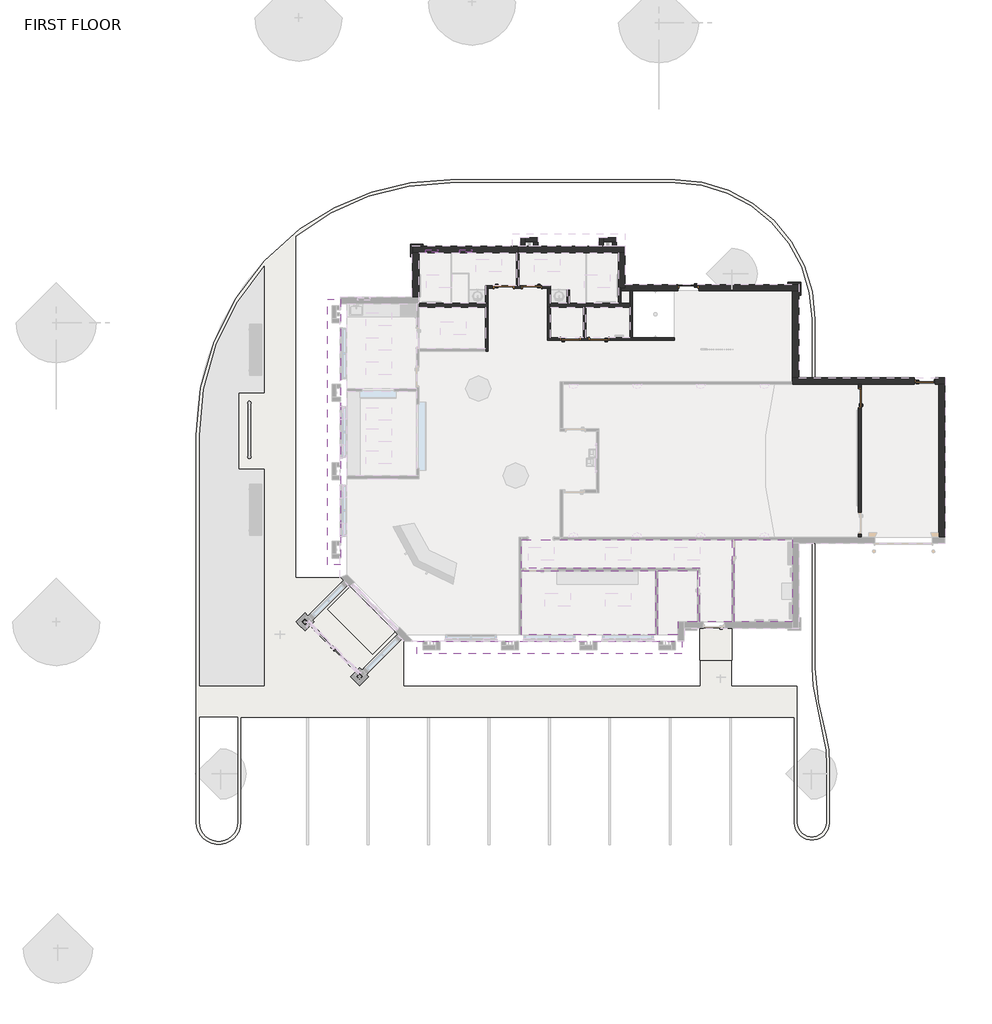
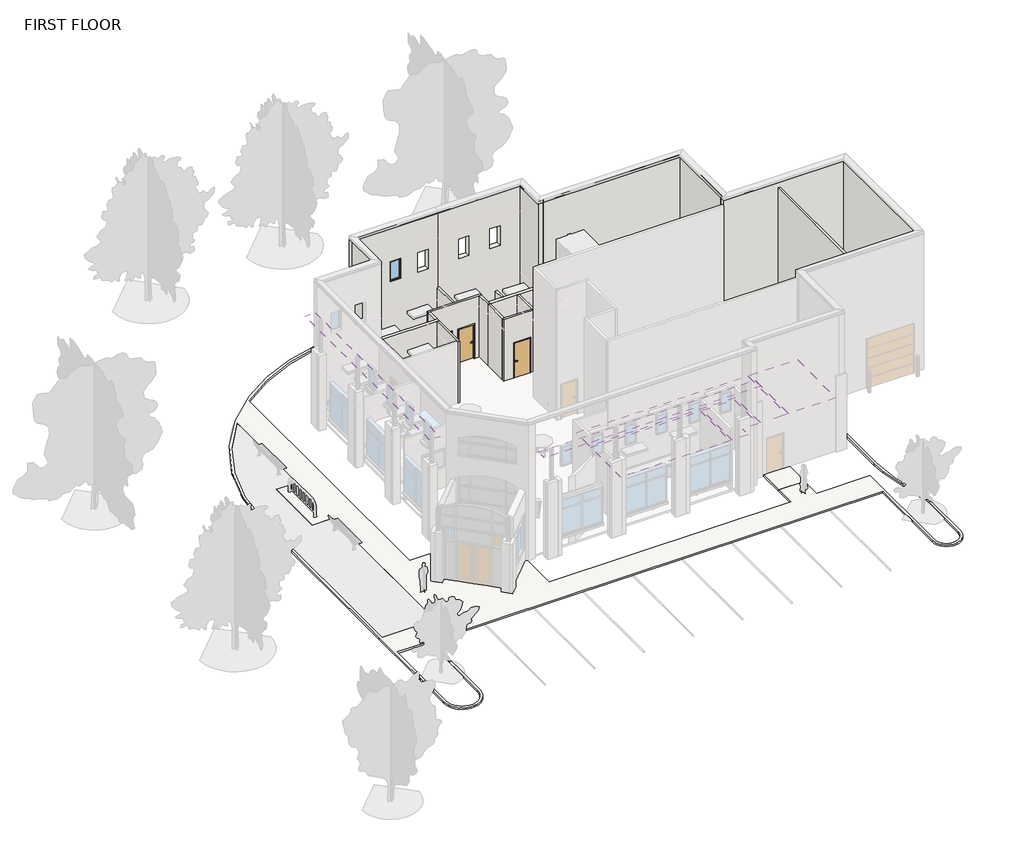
# One storey, part 4 of 7: 32 walls, 7 doors, 4 coverings, 3 slabs, 2 roofs, 2 windows.
"""IFC4 building model written with IfcOpenShell, lengths in millimetres."""

from ifc_helpers import new_model, si_unit, point, frame, frame_2d, origin, place, context, project, spatial, polyline, circle_curve, trimmed, segment, composite_curve, outline, extrude, faceted_brep, transform, mapped, element, save
from components import hm_frame_door_interior_single_4ead148d, hm_frame_door_interior_single_41877bdb, hm_frame_door_interior_single_d49bdf56, door_65ba9089, aluminum_exterior_window_single_3885_e2dbf674

model = new_model("IFC4")

# Units and contexts
model_context = context("Model", 3, world=origin())
ifc_project = project(units=[si_unit("LENGTHUNIT", "METRE", prefix="MILLI")], contexts=[model_context])

# Site, building, storey
site = spatial("IfcSite", under=ifc_project)
building = spatial("IfcBuilding", under=site)
storey = spatial("IfcBuildingStorey", under=building, Name="FIRST FLOOR", Elevation=30480.0)

# Coverings
placement = place(None, origin())
element("IfcCovering", 1, ObjectType="2' x 2' ACT System", at=placement, inside=storey, context=model_context, shape_type="SweptSolid", body=[
    extrude(outline(polyline([(-8159.860253, -2898.6489595), (-1736.860653, -2898.6489595), (-1736.860653, -5952.9989595), (-8159.860253, -5952.9989595), (-8159.860253, -2898.6489595)]), holes=[polyline([(-2916.347753, -3971.7989595), (-4135.547753, -3971.7989595), (-4135.547753, -4581.3989595), (-2916.347753, -4581.3989595), (-2916.347753, -3971.7989595)]), polyline([(-5800.855573, -3971.7989595), (-7020.055573, -3971.7989595), (-7020.055573, -4581.3989595), (-5800.855573, -4581.3989595), (-5800.855573, -3971.7989595)])]), frame((0.0, 0.0, 33528.0), z_axis=(0.0, 0.0, 1.0), x_axis=(1.0, 0.0, 0.0)), (0.0, 0.0, 1.0), 57.15),
])
element("IfcCovering", 2, ObjectType="2' x 2' ACT System", at=placement, inside=storey, context=model_context, shape_type="SweptSolid", body=[
    extrude(outline(polyline([(396.764747, -5343.3989595), (396.764747, -2774.8239595), (-8159.860253, -2774.8239595), (-8159.860253, -1403.2239595), (-6305.660253, -1403.2239595), (1920.764747, -1403.2239595), (1920.764747, -5343.3989595), (396.764747, -5343.3989595)]), holes=[polyline([(-6607.285253, -1777.7722564), (-7826.485253, -1777.7722564), (-7826.485253, -2387.3722564), (-6607.285253, -2387.3722564), (-6607.285253, -1777.7722564)]), polyline([(-2916.347753, -1777.7722564), (-4135.547753, -1777.7722564), (-4135.547753, -2387.3722564), (-2916.347753, -2387.3722564), (-2916.347753, -1777.7722564)]), polyline([(396.764747, -1777.7722564), (-822.435253, -1777.7722564), (-822.435253, -2387.3722564), (396.764747, -2387.3722564), (396.764747, -1777.7722564)])]), frame((0.0, 0.0, 33528.0), z_axis=(0.0, 0.0, 1.0), x_axis=(1.0, 0.0, 0.0)), (0.0, 0.0, 1.0), 57.15),
])
element("IfcCovering", 3, ObjectType="2' x 2' ACT System", at=placement, inside=storey, context=model_context, shape_type="SweptSolid", body=[
    extrude(outline(polyline([(272.939747, -2898.6489595), (272.939747, -5343.3989595), (-670.035253, -5343.3989595), (-670.035253, -5952.9989595), (-1613.035653, -5952.9989595), (-1613.035653, -2898.6489595), (272.939747, -2898.6489595)])), frame((0.0, 0.0, 33528.0), z_axis=(0.0, 0.0, 1.0), x_axis=(1.0, 0.0, 0.0)), (0.0, 0.0, 1.0), 57.15),
])
element("IfcCovering", 4, ObjectType="2' x 2' ACT System", at=placement, inside=storey, context=model_context, shape_type="SweptSolid", body=[
    extrude(outline(polyline([(4816.364747, -1403.2239595), (4816.364747, -5343.3989595), (2044.589747, -5343.3989595), (2044.589747, -1403.2239595), (4816.364747, -1403.2239595)])), frame((0.0, 0.0, 33528.0), z_axis=(0.0, 0.0, 1.0), x_axis=(1.0, 0.0, 0.0)), (0.0, 0.0, 1.0), 57.15),
])

# Doors
hm_frame_door_interior_single_shape = hm_frame_door_interior_single_4ead148d(model_context)
element("IfcDoor", 5, ObjectType="HM Frame Door - Interior Single : 36\" x 84\" x 5.75\" WD Door", at=placement, inside=storey, context=model_context, shape_type="MappedRepresentation", body=[
    mapped(hm_frame_door_interior_single_shape, transform((-7661.385253, 10685.5885405, 30480.0), x_axis=(-1.0, 0.0, 0.0), y_axis=(0.0, -1.0, 0.0), z_axis=(0.0, 0.0, 1.0))),
])
element("IfcDoor", 6, ObjectType="HM Frame Door - Interior Single : 36\" x 84\" x 5.75\" WD Door", at=placement, inside=storey, context=model_context, shape_type="MappedRepresentation", body=[
    mapped(hm_frame_door_interior_single_shape, transform((-5811.886793, 8209.0885405, 30480.0), x_axis=(1.0, 0.0, 0.0), y_axis=(0.0, 1.0, 0.0), z_axis=(0.0, 0.0, 1.0))),
])
element("IfcDoor", 7, ObjectType="HM Frame Door - Interior Single : 36\" x 84\" x 5.75\" WD Door", at=placement, inside=storey, context=model_context, shape_type="MappedRepresentation", body=[
    mapped(hm_frame_door_interior_single_shape, transform((8049.7427189, 5375.4010405, 30480.0), x_axis=(0.0, 1.0, 0.0), y_axis=(-1.0, 0.0, 0.0), z_axis=(0.0, 0.0, 1.0))),
])
hm_frame_door_interior_single_2_shape = hm_frame_door_interior_single_41877bdb(model_context)
element("IfcDoor", 8, ObjectType="HM Frame Door - Interior Single : 36\" x 84\" x 5.75\" WD Door", at=placement, inside=storey, context=model_context, shape_type="MappedRepresentation", body=[
    mapped(hm_frame_door_interior_single_2_shape, transform((-4440.347753, 8209.0885405, 30480.0), x_axis=(-1.0, 0.0, 0.0), y_axis=(0.0, -1.0, 0.0), z_axis=(0.0, 0.0, 1.0))),
])
element("IfcDoor", 9, ObjectType="HM Frame Door - Interior Single : 36\" x 84\" x 5.75\" WD Door", at=placement, inside=storey, context=model_context, shape_type="MappedRepresentation", body=[
    mapped(hm_frame_door_interior_single_2_shape, transform((-9004.410253, 10685.5885405, 30480.0), x_axis=(1.0, 0.0, 0.0), y_axis=(0.0, 1.0, 0.0), z_axis=(0.0, 0.0, 1.0))),
])
hm_frame_door_interior_single_3_shape = hm_frame_door_interior_single_d49bdf56(model_context)
element("IfcDoor", 10, ObjectType="HM Frame Door - Interior Single : 36\" x 84\" x 5.75\" WD Door", at=placement, inside=storey, context=model_context, shape_type="MappedRepresentation", body=[
    mapped(hm_frame_door_interior_single_3_shape, transform((11166.364747, 6188.2010405, 30480.0), x_axis=(1.0, 0.0, 0.0), y_axis=(0.0, 1.0, 0.0), z_axis=(0.0, 0.0, 1.0))),
])
door_shape = door_65ba9089(model_context)
element("IfcDoor", 11, ObjectType="HM_Frame_Door_-_Exterior_Single_3894 : 3'-0\" x 7'-0\" Metal_5.75\" x 4\"", at=placement, inside=storey, context=model_context, shape_type="MappedRepresentation", body=[
    mapped(door_shape, transform((-162.035253, 10658.6010405, 30480.0), x_axis=(1.0, 0.0, 0.0), y_axis=(0.0, 1.0, 0.0), z_axis=(0.0, 0.0, 1.0))),
])

# Roofs
element("IfcRoof", 12, ObjectType="Generic - 9\"", at=placement, inside=storey, context=model_context, shape_type="SweptSolid", body=[
    extrude(outline(polyline([(-13166.835253, -6867.3989595), (-13166.835253, -6257.7989595), (-466.865733, -6257.7989595), (-466.865733, -6867.3989595), (-13166.835253, -6867.3989595)])), frame((0.0, 0.0, 37033.2), z_axis=(0.0, 0.0, 1.0), x_axis=(1.0, 0.0, 0.0)), (0.0, 0.0, 1.0), 228.6),
])
element("IfcRoof", 13, ObjectType="Generic - 9\"", at=placement, inside=storey, context=model_context, shape_type="SweptSolid", body=[
    extrude(outline(polyline([(-17434.035253, -2600.1989595), (-17434.035253, 10099.7705605), (-16824.435253, 10099.7705605), (-16824.435253, -2600.1989595), (-17434.035253, -2600.1989595)])), frame((0.0, 0.0, 37033.2), z_axis=(0.0, 0.0, 1.0), x_axis=(1.0, 0.0, 0.0)), (0.0, 0.0, 1.0), 228.6),
])

# Slabs
element("IfcSlab", 14, ObjectType="Concrete - 4\"", at=placement, inside=storey, context=model_context, shape_type="SweptSolid", body=[
    extrude(outline(polyline([(-14214.7196115, -5819.514601), (-15292.3503461, -6897.1453355), (-17447.6118151, -4741.8838664), (-16369.9810806, -3664.2531319), (-14214.7196115, -5819.514601)])), frame((0.0, 0.0, 30378.4), z_axis=(0.0, 0.0, 1.0), x_axis=(1.0, 0.0, 0.0)), (0.0, 0.0, 1.0), 101.6),
])
element("IfcSlab", 15, ObjectType="Concrete - 4\"", at=placement, inside=storey, context=model_context, shape_type="SweptSolid", body=[
    extrude(outline(polyline([(396.764747, -5648.1989595), (1920.764747, -5648.1989595), (1920.764747, -7172.1989595), (396.764747, -7172.1989595), (396.764747, -5648.1989595)])), frame((0.0, 0.0, 30378.4), z_axis=(0.0, 0.0, 1.0), x_axis=(1.0, 0.0, 0.0)), (0.0, 0.0, 1.0), 101.6),
])
element("IfcSlab", 16, ObjectType="Concrete - 4\"", at=placement, inside=storey, context=model_context, shape_type="SweptSolid", body=[
    extrude(outline(composite_curve([segment(trimmed(circle_curve(frame_2d((18007.0934557, -7230.0234415)), 12111.0403124), [point((5900.665264, -7564.2297969))], [point((6420.4398393, -10755.1837814))], True, "CARTESIAN"), True, "CONTINUOUS"), segment(trimmed(circle_curve(frame_2d((2438.7853037, -11966.5750183)), 4161.855544), [point((6420.4398393, -10755.1837814))], [point((6594.0918739, -12199.960701))], False, "CARTESIAN"), True, "CONTINUOUS"), segment(polyline([(6594.0918739, -12199.960701), (6594.0342519, -14944.8940843)]), True, "CONTINUOUS"), segment(trimmed(circle_curve(frame_2d((5755.8342519, -14944.8940843)), 838.2), [point((6594.0342519, -14944.8940843))], [point((4917.6342519, -14944.8940843))], False, "CARTESIAN"), True, "CONTINUOUS"), segment(polyline([(4917.6342519, -14944.8940843), (4917.6342519, -9915.3989595), (-21597.6454668, -9915.3989595), (-21597.6454668, -14929.625341)]), True, "CONTINUOUS"), segment(trimmed(circle_curve(frame_2d((-22664.4454668, -14929.625341)), 1066.8), [point((-21597.6454668, -14929.625341))], [point((-23731.2454668, -14929.625341))], False, "CARTESIAN"), True, "CONTINUOUS"), segment(polyline([(-23731.2454668, -14929.625341), (-23733.5657419, -8391.3989595), (-23733.5657419, 3597.4010405)]), True, "CONTINUOUS"), segment(trimmed(circle_curve(frame_2d((-11449.3923274, 3597.4010405)), 12284.1734145), [point((-23733.5657419, 3597.4010405))], [point((-18752.7442995, 13474.7471643))], False, "CARTESIAN"), True, "CONTINUOUS"), segment(trimmed(circle_curve(frame_2d((-11617.8585677, 3825.2415406)), 12000.8146885), [point((-18752.7442995, 13474.7471643))], [point((-11554.882421, 15825.8909894))], False, "CARTESIAN"), True, "CONTINUOUS"), segment(polyline([(-11554.882421, 15825.8909894), (-812.4529895, 15837.9680159)]), True, "CONTINUOUS"), segment(trimmed(circle_curve(frame_2d((-804.9143169, 9132.3722535)), 6705.6), [point((-812.4529895, 15837.9680159))], [point((5900.665264, 9148.9204822))], False, "CARTESIAN"), True, "CONTINUOUS"), segment(polyline([(5900.665264, 9148.9204822), (5900.665264, -7564.2297969)]), True, "CONTINUOUS")], self_intersect=False), holes=[composite_curve([segment(polyline([(1920.764747, -8391.3991254), (5070.0342519, -8391.3991254), (5070.0342519, -14944.8940843)]), True, "CONTINUOUS"), segment(trimmed(circle_curve(frame_2d((5755.8342519, -14944.8940843)), 685.7999999), [point((5070.0342519, -14944.8940843))], [point((6441.6342517, -14944.9084807))], True, "CARTESIAN"), True, "CONTINUOUS"), segment(polyline([(6441.6342517, -14944.9084807), (6441.6919644, -12195.6477783)]), True, "CONTINUOUS"), segment(trimmed(circle_curve(frame_2d((2438.7854456, -11966.5749761)), 4009.4556921), [point((6441.6919644, -12195.6477783))], [point((6274.6386864, -10799.5424735))], True, "CARTESIAN"), True, "CONTINUOUS"), segment(trimmed(circle_curve(frame_2d((18007.0985023, -7230.0206277)), 12263.4456635), [point((6274.6386864, -10799.5424735))], [point((5798.7693976, -8391.3991233))], False, "CARTESIAN"), True, "CONTINUOUS"), segment(trimmed(circle_curve(frame_2d((18007.0934397, -7230.0237664)), 12263.4403263), [point((5798.7693976, -8391.3991233))], [point((5748.2652478, -7566.3271994))], False, "CARTESIAN"), True, "CONTINUOUS"), segment(polyline([(5748.2652478, -7566.3271994), (5748.2652475, 9148.7313547)]), True, "CONTINUOUS"), segment(trimmed(circle_curve(frame_2d((-804.9143255, 9132.3722567)), 6553.199992), [point((5748.2652475, 9148.7313547))], [point((-812.2816603, 15685.5681074))], True, "CARTESIAN"), True, "CONTINUOUS"), segment(polyline([(-812.2816603, 15685.5681074), (-11555.1981803, 15673.4905381)]), True, "CONTINUOUS"), segment(trimmed(circle_curve(frame_2d((-11617.8585677, 3825.2415406)), 11848.4146885), [point((-11555.1981803, 15673.4905381))], [point((-18958.035253, 13126.1413282))], True, "CARTESIAN"), True, "CONTINUOUS"), segment(polyline([(-18958.035253, 13126.1413282), (-18958.035253, -3209.7989595), (-16824.435253, -3209.7989595), (-16369.9810806, -3664.2531319), (-17447.6118151, -4741.8838664), (-15292.3503461, -6897.1453355), (-14214.7196115, -5819.514601), (-13776.435253, -6257.7989595), (-13776.435253, -8391.3989595), (396.764747, -8391.3989595), (396.764747, -7172.1989595), (1920.764747, -7172.1989595), (1920.764747, -8391.3991254)]), True, "CONTINUOUS")], self_intersect=False), composite_curve([segment(polyline([(-20482.035253, 5629.3807205), (-20482.035253, 11696.2458939)]), True, "CONTINUOUS"), segment(trimmed(circle_curve(frame_2d((-11449.3923274, 3597.4010405)), 12131.7734145), [point((-20482.035253, 11696.2458939))], [point((-23581.1657419, 3597.4010405))], True, "CARTESIAN"), True, "CONTINUOUS"), segment(polyline([(-23581.1657419, 3597.4010405), (-23581.1657419, -8391.3989595), (-20482.035253, -8391.3989595), (-20482.035253, 1971.8010405), (-21701.235253, 1971.8010405), (-21701.235253, 5629.3807205), (-20482.035253, 5629.3807205)]), True, "CONTINUOUS")], self_intersect=False), composite_curve([segment(polyline([(-21750.0454668, -9915.3989595), (-23581.1657419, -9915.3989595), (-23578.8454668, -14929.625341)]), True, "CONTINUOUS"), segment(trimmed(circle_curve(frame_2d((-22664.4454668, -14929.625341)), 914.4), [point((-23578.8454668, -14929.625341))], [point((-21750.0454668, -14929.625341))], True, "CARTESIAN"), True, "CONTINUOUS"), segment(polyline([(-21750.0454668, -14929.625341), (-21750.0454668, -9915.3989595)]), True, "CONTINUOUS")], self_intersect=False)]), frame((0.0, 0.0, 30378.4), z_axis=(0.0, 0.0, 1.0), x_axis=(1.0, 0.0, 0.0)), (0.0, 0.0, 1.0), 101.6),
])

# Walls
element("IfcWall", 17, ObjectType="Exterior - Brick on Mtl. Stud", at=placement, inside=storey, context=model_context, shape_type="SweptSolid", body=[
    extrude(outline(polyline([(30480.0, 4816.364747), (30480.0, 5121.164747), (39014.4, 5121.164747), (39014.4, 4819.539747), (38899.5401618, 4819.539747), (38890.816921, 4816.364747), (30480.0, 4816.364747)])), frame((0.0, 6340.6010405, 0.0), z_axis=(0.0, 1.0, 0.0), x_axis=(0.0, 0.0, 1.0)), (0.0, 0.0, 1.0), 4165.6),
])
element("IfcWall", 18, ObjectType="Exterior - Brick on Mtl. Stud", at=placement, inside=storey, context=model_context, shape_type="Brep", body=[
    faceted_brep([(12131.564747, 6035.8010405, 30480.0), (12131.564747, 6035.8010405, 39014.4), (11829.939747, 6035.8010405, 39014.4), (11829.939747, 6035.8010405, 38899.5401618), (11826.764747, 6035.8010405, 38890.816921), (4816.364747, 6035.8010405, 38890.816921), (4816.364747, 6035.8010405, 38557.2), (4816.364747, 6035.8010405, 30480.0), (7987.8302189, 6035.8010405, 30480.0), (8111.6552189, 6035.8010405, 30480.0), (10658.364747, 6035.8010405, 30480.0), (10658.364747, 6035.8010405, 32664.4), (11674.364747, 6035.8010405, 32664.4), (11674.364747, 6035.8010405, 30480.0), (11826.764747, 6035.8010405, 30480.0), (12131.564747, 6340.6010405, 39014.4), (12131.564747, 6340.6010405, 30480.0), (11674.364747, 6340.6010405, 30480.0), (11674.364747, 6340.6010405, 32664.4), (10658.364747, 6340.6010405, 32664.4), (10658.364747, 6340.6010405, 30480.0), (5121.164747, 6340.6010405, 30480.0), (4816.364747, 6340.6010405, 30480.0), (4816.364747, 6340.6010405, 38890.816921), (4819.539747, 6340.6010405, 38899.5401618), (4819.539747, 6340.6010405, 39014.4), (5121.164747, 6340.6010405, 39014.4), (4816.364747, 6159.6260405, 30480.0), (4819.539747, 6038.9760405, 39014.4), (11829.939747, 6038.9760405, 39014.4), (4819.539747, 6038.9760405, 38899.5401618), (11829.939747, 6038.9760405, 38899.5401618)], [[[0, 1, 2, 3, 4, 5, 6, 7, 8, 9, 10, 11, 12, 13, 14]], [[15, 16, 17, 18, 19, 20, 21, 22, 23, 24, 25, 26]], [[7, 27, 22, 21, 20, 10, 9, 8]], [[16, 0, 14, 13, 17]], [[1, 15, 26, 25, 28, 29, 2]], [[1, 0, 16, 15]], [[22, 27, 7, 6, 5, 23]], [[19, 18, 12, 11]], [[20, 19, 11, 10]], [[18, 17, 13, 12]], [[30, 28, 25, 24]], [[5, 30, 24, 23]], [[30, 31, 29, 28]], [[31, 30, 5, 4]], [[29, 31, 3, 2]], [[31, 4, 3]]]),
])
element("IfcWall", 19, ObjectType="Exterior - Brick on Mtl. Stud", at=placement, inside=storey, context=model_context, shape_type="SweptSolid", body=[
    extrude(outline(polyline([(30480.0, 11826.764747), (30480.0, 12131.564747), (39014.4, 12131.564747), (39014.4, 11829.939747), (38899.5401618, 11829.939747), (38890.816921, 11826.764747), (30480.0, 11826.764747)])), frame((0.0, -1279.3989595, 0.0), z_axis=(0.0, 1.0, 0.0), x_axis=(0.0, 0.0, 1.0)), (0.0, 0.0, 1.0), 7315.2),
])
element("IfcWall", 20, ObjectType="Exterior - Brick on Mtl. Stud", at=placement, inside=storey, context=model_context, shape_type="Brep", body=[
    faceted_brep([(-13370.035253, 12335.0010405, 30480.0), (-13065.235253, 12335.0010405, 30480.0), (-8394.810253, 12335.0010405, 30480.0), (-8332.897753, 12335.0010405, 30480.0), (-8332.897753, 12335.0010405, 38890.816921), (-13065.235253, 12335.0010405, 38890.816921), (-13068.410253, 12335.0010405, 38899.5401618), (-13068.410253, 12335.0010405, 39014.4), (-13370.035253, 12335.0010405, 39014.4), (-9509.235253, 12335.0010405, 35610.8), (-9509.235253, 12335.0010405, 36830.0), (-8899.635253, 12335.0010405, 36830.0), (-8899.635253, 12335.0010405, 35610.8), (-11134.835253, 12335.0010405, 35610.8), (-11134.835253, 12335.0010405, 36830.0), (-10525.235253, 12335.0010405, 36830.0), (-10525.235253, 12335.0010405, 35610.8), (-12760.435253, 12335.0010405, 35610.8), (-12760.435253, 12335.0010405, 36830.0), (-12150.835253, 12335.0010405, 36830.0), (-12150.835253, 12335.0010405, 35610.8), (-8332.897753, 12639.8010405, 30480.0), (-13370.035253, 12639.8010405, 30480.0), (-13370.035253, 12639.8010405, 39014.4), (-8332.897753, 12639.8010405, 39014.4), (-9509.235253, 12639.8010405, 36830.0), (-9509.235253, 12639.8010405, 35610.8), (-8899.635253, 12639.8010405, 35610.8), (-8899.635253, 12639.8010405, 36830.0), (-11134.835253, 12639.8010405, 36830.0), (-11134.835253, 12639.8010405, 35610.8), (-10525.235253, 12639.8010405, 35610.8), (-10525.235253, 12639.8010405, 36830.0), (-12760.435253, 12639.8010405, 36830.0), (-12760.435253, 12639.8010405, 35610.8), (-12150.835253, 12639.8010405, 35610.8), (-12150.835253, 12639.8010405, 36830.0), (-13068.410253, 12338.1760405, 39014.4), (-8332.897753, 12338.1760405, 39014.4), (-8332.897753, 12338.1760405, 38899.5401618), (-13068.410253, 12338.1760405, 38899.5401618)], [[[0, 1, 2, 3, 4, 5, 6, 7, 8], [9, 10, 11, 12], [13, 14, 15, 16], [17, 18, 19, 20]], [[21, 22, 23, 24], [25, 26, 27, 28], [29, 30, 31, 32], [33, 34, 35, 36]], [[3, 2, 1, 0, 22, 21]], [[24, 23, 8, 7, 37, 38]], [[0, 8, 23, 22]], [[3, 21, 24, 38, 39, 4]], [[26, 25, 10, 9]], [[27, 26, 9, 12]], [[28, 27, 12, 11]], [[25, 28, 11, 10]], [[30, 29, 14, 13]], [[31, 30, 13, 16]], [[32, 31, 16, 15]], [[29, 32, 15, 14]], [[34, 33, 18, 17]], [[35, 34, 17, 20]], [[36, 35, 20, 19]], [[33, 36, 19, 18]], [[40, 37, 7, 6]], [[5, 40, 6]], [[37, 40, 39, 38]], [[40, 5, 4, 39]]]),
])
element("IfcWall", 21, ObjectType="Exterior - Brick on Mtl. Stud", at=placement, inside=storey, context=model_context, shape_type="SweptSolid", body=[
    extrude(outline(polyline([(30480.0, -13370.035253), (30480.0, -13065.235253), (38890.816921, -13065.235253), (38899.5401618, -13068.410253), (39014.4, -13068.410253), (39014.4, -13370.035253), (30480.0, -13370.035253)])), frame((0.0, 10201.4010405, 0.0), z_axis=(0.0, 1.0, 0.0), x_axis=(0.0, 0.0, 1.0)), (0.0, 0.0, 1.0), 2133.6),
])
element("IfcWall", 22, ObjectType="Exterior - Brick on Mtl. Stud", at=placement, inside=storey, context=model_context, shape_type="Brep", body=[
    faceted_brep([(-3210.035253, 10658.6010405, 30480.0), (-3210.035253, 10811.0010405, 30480.0), (-3210.035253, 12335.0010405, 30480.0), (-3210.035253, 12335.0010405, 39014.4), (-3210.035253, 10811.0010405, 39014.4), (-3210.035253, 10509.3760405, 39014.4), (-3210.035253, 10509.3760405, 38899.5401618), (-3210.035253, 10506.2010405, 38890.816921), (-3210.035253, 10506.2010405, 34290.0), (-3210.035253, 10658.6010405, 34290.0), (-3514.835253, 12335.0010405, 30480.0), (-3514.835253, 10658.6010405, 30480.0), (-3514.835253, 10658.6010405, 34290.0), (-3514.835253, 10506.2010405, 34290.0), (-3514.835253, 10506.2010405, 34594.8), (-3514.835253, 10506.2010405, 38557.2), (-3514.835253, 10506.2010405, 38890.816921), (-3514.835253, 12335.0010405, 38890.816921), (-3391.010253, 10658.6010405, 30480.0), (-3511.660253, 12335.0010405, 39014.4), (-3511.660253, 10509.3760405, 39014.4), (-3391.010253, 10658.6010405, 34290.0), (-3391.010253, 10506.2010405, 34290.0), (-3511.660253, 12335.0010405, 38899.5401618), (-3511.660253, 10509.3760405, 38899.5401618)], [[[0, 1, 2, 3, 4, 5, 6, 7, 8, 9]], [[10, 11, 12, 13, 14, 15, 16, 17]], [[2, 1, 0, 18, 11, 10]], [[5, 4, 3, 19, 20]], [[11, 18, 0, 9, 21, 12]], [[13, 12, 21, 9, 8, 22]], [[13, 22, 8, 7, 16, 15, 14]], [[3, 2, 10, 17, 23, 19]], [[24, 16, 7, 6]], [[20, 24, 6, 5]], [[16, 24, 23, 17]], [[23, 24, 20, 19]]]),
])
element("IfcWall", 23, ObjectType="Exterior - Brick on Mtl. Stud", at=placement, inside=storey, context=model_context, shape_type="Brep", body=[
    faceted_brep([(5121.164747, 10506.2010405, 30480.0), (5121.164747, 10506.2010405, 39014.4), (4819.539747, 10506.2010405, 39014.4), (4819.539747, 10506.2010405, 38899.5401618), (4816.364747, 10506.2010405, 38890.816921), (-3210.035253, 10506.2010405, 38890.816921), (-3210.035253, 10506.2010405, 34290.0), (-3391.010253, 10506.2010405, 34290.0), (-3391.010253, 10506.2010405, 30480.0), (-2967.147753, 10506.2010405, 30480.0), (-2843.322753, 10506.2010405, 30480.0), (-670.035253, 10506.2010405, 30480.0), (-670.035253, 10506.2010405, 32715.2), (345.964747, 10506.2010405, 32715.2), (345.964747, 10506.2010405, 30480.0), (4816.364747, 10506.2010405, 30480.0), (-3210.035253, 10811.0010405, 39014.4), (5121.164747, 10811.0010405, 39014.4), (5121.164747, 10811.0010405, 30480.0), (345.964747, 10811.0010405, 30480.0), (345.964747, 10811.0010405, 32715.2), (-670.035253, 10811.0010405, 32715.2), (-670.035253, 10811.0010405, 30480.0), (-3210.035253, 10811.0010405, 30480.0), (-3391.010253, 10658.6010405, 30480.0), (-3210.035253, 10658.6010405, 30480.0), (-3210.035253, 10509.3760405, 39014.4), (4819.539747, 10509.3760405, 39014.4), (-3210.035253, 10658.6010405, 34290.0), (-3391.010253, 10658.6010405, 34290.0), (-3210.035253, 10509.3760405, 38899.5401618), (4819.539747, 10509.3760405, 38899.5401618)], [[[0, 1, 2, 3, 4, 5, 6, 7, 8, 9, 10, 11, 12, 13, 14, 15]], [[16, 17, 18, 19, 20, 21, 22, 23]], [[18, 0, 15, 14, 19]], [[8, 24, 25, 23, 22, 11, 10, 9]], [[17, 16, 26, 27, 2, 1]], [[1, 0, 18, 17]], [[7, 6, 28, 29]], [[8, 7, 29, 24]], [[29, 28, 25, 24]], [[23, 25, 28, 6, 5, 30, 26, 16]], [[21, 20, 13, 12]], [[22, 21, 12, 11]], [[20, 19, 14, 13]], [[31, 27, 26, 30]], [[4, 31, 30, 5]], [[27, 31, 3, 2]], [[31, 4, 3]]]),
])
element("IfcWall", 24, ObjectType="Exterior - Brick on Mtl. Stud", at=placement, inside=storey, context=model_context, shape_type="Brep", body=[
    faceted_brep([(-8332.897753, 12335.0010405, 30480.0), (-8270.985253, 12335.0010405, 30480.0), (-3514.835253, 12335.0010405, 30480.0), (-3210.035253, 12335.0010405, 30480.0), (-3210.035253, 12335.0010405, 39014.4), (-3511.660253, 12335.0010405, 39014.4), (-3511.660253, 12335.0010405, 38899.5401618), (-3514.835253, 12335.0010405, 38890.816921), (-8332.897753, 12335.0010405, 38890.816921), (-6512.035253, 12335.0010405, 36830.0), (-6512.035253, 12335.0010405, 35610.8), (-7121.635253, 12335.0010405, 35610.8), (-7121.635253, 12335.0010405, 36830.0), (-4683.235253, 12335.0010405, 36830.0), (-4683.235253, 12335.0010405, 35610.8), (-5292.835253, 12335.0010405, 35610.8), (-5292.835253, 12335.0010405, 36830.0), (-3210.035253, 12639.8010405, 30480.0), (-8332.897753, 12639.8010405, 30480.0), (-8332.897753, 12639.8010405, 39014.4), (-3210.035253, 12639.8010405, 39014.4), (-6512.035253, 12639.8010405, 35610.8), (-6512.035253, 12639.8010405, 36830.0), (-7121.635253, 12639.8010405, 36830.0), (-7121.635253, 12639.8010405, 35610.8), (-4683.235253, 12639.8010405, 35610.8), (-4683.235253, 12639.8010405, 36830.0), (-5292.835253, 12639.8010405, 36830.0), (-5292.835253, 12639.8010405, 35610.8), (-8332.897753, 12338.1760405, 39014.4), (-3511.660253, 12338.1760405, 39014.4), (-8332.897753, 12338.1760405, 38899.5401618), (-3511.660253, 12338.1760405, 38899.5401618)], [[[0, 1, 2, 3, 4, 5, 6, 7, 8], [9, 10, 11, 12], [13, 14, 15, 16]], [[17, 18, 19, 20], [21, 22, 23, 24], [25, 26, 27, 28]], [[3, 2, 1, 0, 18, 17]], [[20, 19, 29, 30, 5, 4]], [[4, 3, 17, 20]], [[18, 0, 8, 31, 29, 19]], [[10, 9, 22, 21]], [[11, 10, 21, 24]], [[12, 11, 24, 23]], [[9, 12, 23, 22]], [[14, 13, 26, 25]], [[15, 14, 25, 28]], [[16, 15, 28, 27]], [[13, 16, 27, 26]], [[32, 30, 29, 31]], [[7, 32, 31, 8]], [[30, 32, 6, 5]], [[32, 7, 6]]]),
])
element("IfcWall", 25, ObjectType="Generic - 4\" CMU", at=placement, inside=storey, context=model_context, shape_type="Brep", body=[
    faceted_brep([(4613.164747, 10810.4918385, 30480.0), (5121.164747, 10810.4918385, 30480.0), (5222.764747, 10810.4918385, 30480.0), (5222.764747, 10810.4918385, 35153.6), (5121.164747, 10810.4918385, 35153.6), (4613.164747, 10810.4918385, 35153.6), (4613.164747, 10912.0918385, 30480.0), (4613.164747, 10912.0918385, 35153.6), (5222.764747, 10912.0918385, 35153.6), (5222.764747, 10912.0918385, 30480.0)], [[[0, 1, 2, 3, 4, 5]], [[6, 7, 8, 9]], [[2, 1, 0, 6, 9]], [[5, 4, 3, 8, 7]], [[0, 5, 7, 6]], [[3, 2, 9, 8]]]),
])
element("IfcWall", 26, ObjectType="Generic - 4\" CMU", at=placement, inside=storey, context=model_context, shape_type="SweptSolid", body=[
    extrude(outline(polyline([(5222.764747, 10810.4918385), (5222.764747, 10302.4918385), (5121.164747, 10302.4918385), (5121.164747, 10810.4918385), (5222.764747, 10810.4918385)])), frame((0.0, 0.0, 30480.0), z_axis=(0.0, 0.0, 1.0), x_axis=(1.0, 0.0, 0.0)), (0.0, 0.0, 1.0), 4673.6),
])
element("IfcWall", 27, ObjectType="Generic - 4\" CMU", at=placement, inside=storey, context=model_context, shape_type="Brep", body=[
    faceted_brep([(-12862.035253, 12741.4010405, 30480.0), (-13471.635253, 12741.4010405, 30480.0), (-13471.635253, 12741.4010405, 35153.6), (-12862.035253, 12741.4010405, 35153.6), (-12862.035253, 12639.8010405, 30480.0), (-12862.035253, 12639.8010405, 35153.6), (-13370.035253, 12639.8010405, 35153.6), (-13471.635253, 12639.8010405, 35153.6), (-13471.635253, 12639.8010405, 30480.0), (-13370.035253, 12639.8010405, 30480.0)], [[[0, 1, 2, 3]], [[4, 5, 6, 7, 8, 9]], [[1, 0, 4, 9, 8]], [[3, 2, 7, 6, 5]], [[0, 3, 5, 4]], [[2, 1, 8, 7]]]),
])
element("IfcWall", 28, ObjectType="Generic - 4\" CMU", at=placement, inside=storey, context=model_context, shape_type="SweptSolid", body=[
    extrude(outline(polyline([(-13370.035253, 12639.8010405), (-13370.035253, 12131.8010405), (-13471.635253, 12131.8010405), (-13471.635253, 12639.8010405), (-13370.035253, 12639.8010405)])), frame((0.0, 0.0, 30480.0), z_axis=(0.0, 0.0, 1.0), x_axis=(1.0, 0.0, 0.0)), (0.0, 0.0, 1.0), 4673.6),
])
element("IfcWall", 29, ObjectType="Generic - 8\" Masonry", at=placement, inside=storey, context=model_context, shape_type="Brep", body=[
    faceted_brep([(-7994.729773, 12639.8010405, 30480.0), (-7994.729773, 12852.5260405, 30480.0), (-7994.729773, 13046.2010405, 30480.0), (-7994.729773, 13046.2010405, 35153.6), (-7994.729773, 12852.5260405, 35153.6), (-7994.729773, 12639.8010405, 35153.6), (-8188.404773, 12639.8010405, 30480.0), (-8188.404773, 12639.8010405, 35153.6), (-8188.404773, 13046.2010405, 35153.6), (-8188.404773, 13046.2010405, 30480.0)], [[[0, 1, 2, 3, 4, 5]], [[6, 7, 8, 9]], [[2, 1, 0, 6, 9]], [[5, 4, 3, 8, 7]], [[0, 5, 7, 6]], [[3, 2, 9, 8]]]),
])
element("IfcWall", 30, ObjectType="Generic - 8\" Masonry", at=placement, inside=storey, context=model_context, shape_type="Brep", body=[
    faceted_brep([(-7994.729773, 12852.5260405, 30480.0), (-7569.279773, 12852.5260405, 30480.0), (-7375.604773, 12852.5260405, 30480.0), (-7375.604773, 12852.5260405, 35153.6), (-7569.279773, 12852.5260405, 35153.6), (-7994.729773, 12852.5260405, 35153.6), (-7994.729773, 13046.2010405, 30480.0), (-7994.729773, 13046.2010405, 35153.6), (-7375.604773, 13046.2010405, 35153.6), (-7375.604773, 13046.2010405, 30480.0)], [[[0, 1, 2, 3, 4, 5]], [[6, 7, 8, 9]], [[2, 1, 0, 6, 9]], [[5, 4, 3, 8, 7]], [[3, 2, 9, 8]], [[0, 5, 7, 6]]]),
])
element("IfcWall", 31, ObjectType="Generic - 8\" Masonry", at=placement, inside=storey, context=model_context, shape_type="SweptSolid", body=[
    extrude(outline(polyline([(-7569.279773, 12639.8010405), (-7569.279773, 12852.5260405), (-7375.604773, 12852.5260405), (-7375.604773, 12639.8010405), (-7569.279773, 12639.8010405)])), frame((0.0, 0.0, 30480.0), z_axis=(0.0, 0.0, 1.0), x_axis=(1.0, 0.0, 0.0)), (0.0, 0.0, 1.0), 4673.6),
])
element("IfcWall", 32, ObjectType="Generic - 8\" Masonry", at=placement, inside=storey, context=model_context, shape_type="Brep", body=[
    faceted_brep([(-4235.529773, 12639.8010405, 30480.0), (-4235.529773, 12852.5260405, 30480.0), (-4235.529773, 13046.2010405, 30480.0), (-4235.529773, 13046.2010405, 35153.6), (-4235.529773, 12852.5260405, 35153.6), (-4235.529773, 12639.8010405, 35153.6), (-4429.204773, 12639.8010405, 30480.0), (-4429.204773, 12639.8010405, 35153.6), (-4429.204773, 13046.2010405, 35153.6), (-4429.204773, 13046.2010405, 30480.0)], [[[0, 1, 2, 3, 4, 5]], [[6, 7, 8, 9]], [[2, 1, 0, 6, 9]], [[5, 4, 3, 8, 7]], [[0, 5, 7, 6]], [[3, 2, 9, 8]]]),
])
element("IfcWall", 33, ObjectType="Generic - 8\" Masonry", at=placement, inside=storey, context=model_context, shape_type="Brep", body=[
    faceted_brep([(-4235.529773, 12852.5260405, 30480.0), (-3810.079773, 12852.5260405, 30480.0), (-3616.404773, 12852.5260405, 30480.0), (-3616.404773, 12852.5260405, 35153.6), (-3810.079773, 12852.5260405, 35153.6), (-4235.529773, 12852.5260405, 35153.6), (-4235.529773, 13046.2010405, 30480.0), (-4235.529773, 13046.2010405, 35153.6), (-3616.404773, 13046.2010405, 35153.6), (-3616.404773, 13046.2010405, 30480.0)], [[[0, 1, 2, 3, 4, 5]], [[6, 7, 8, 9]], [[2, 1, 0, 6, 9]], [[5, 4, 3, 8, 7]], [[3, 2, 9, 8]], [[0, 5, 7, 6]]]),
])
element("IfcWall", 34, ObjectType="Generic - 8\" Masonry", at=placement, inside=storey, context=model_context, shape_type="SweptSolid", body=[
    extrude(outline(polyline([(-3810.079773, 12639.8010405), (-3810.079773, 12852.5260405), (-3616.404773, 12852.5260405), (-3616.404773, 12639.8010405), (-3810.079773, 12639.8010405)])), frame((0.0, 0.0, 30480.0), z_axis=(0.0, 0.0, 1.0), x_axis=(1.0, 0.0, 0.0)), (0.0, 0.0, 1.0), 4673.6),
])
element("IfcWall", 35, ObjectType="Interior - 4 7/8\" Partition (1-hr)", at=placement, inside=storey, context=model_context, shape_type="Brep", body=[
    faceted_brep([(-9890.235253, 9728.3260405, 30480.0), (-9890.235253, 7740.7760405, 30480.0), (-9890.235253, 7616.9510405, 30480.0), (-9890.235253, 7616.9510405, 34290.0), (-9890.235253, 7740.7760405, 34290.0), (-9890.235253, 9728.3260405, 34290.0), (-9766.410253, 9728.3260405, 30480.0), (-9766.410253, 9728.3260405, 34290.0), (-9766.410253, 7616.9510405, 34290.0), (-9766.410253, 7616.9510405, 30480.0)], [[[0, 1, 2, 3, 4, 5]], [[6, 7, 8, 9]], [[2, 1, 0, 6, 9]], [[5, 4, 3, 8, 7]], [[3, 2, 9, 8]], [[0, 5, 7, 6]]]),
])
element("IfcWall", 36, ObjectType="Interior - 4 7/8\" Partition (1-hr)", at=placement, inside=storey, context=model_context, shape_type="Brep", body=[
    faceted_brep([(-8270.985253, 10747.5010405, 30480.0), (-8270.985253, 12335.0010405, 30480.0), (-8270.985253, 12335.0010405, 34290.0), (-8270.985253, 10747.5010405, 34290.0), (-8394.810253, 10747.5010405, 30480.0), (-8394.810253, 10747.5010405, 34290.0), (-8394.810253, 12335.0010405, 34290.0), (-8394.810253, 12335.0010405, 30480.0), (-8332.897753, 12335.0010405, 30480.0)], [[[0, 1, 2, 3]], [[4, 5, 6, 7]], [[1, 0, 4, 7, 8]], [[3, 2, 6, 5]], [[0, 3, 5, 4]], [[2, 1, 8, 7, 6]]]),
])
element("IfcWall", 37, ObjectType="Interior - 4 7/8\" Partition (1-hr)", at=placement, inside=storey, context=model_context, shape_type="Brep", body=[
    faceted_brep([(-8169.385253, 10747.5010405, 32664.4), (-8169.385253, 10747.5010405, 30480.0), (-8270.985253, 10747.5010405, 30480.0), (-8394.810253, 10747.5010405, 30480.0), (-8496.410253, 10747.5010405, 30480.0), (-8496.410253, 10747.5010405, 32664.4), (-9512.410253, 10747.5010405, 32664.4), (-9512.410253, 10747.5010405, 30480.0), (-9890.235253, 10747.5010405, 30480.0), (-9890.235253, 10747.5010405, 34290.0), (-8394.810253, 10747.5010405, 34290.0), (-8270.985253, 10747.5010405, 34290.0), (-6775.560253, 10747.5010405, 34290.0), (-6775.560253, 10747.5010405, 30480.0), (-7153.385253, 10747.5010405, 30480.0), (-7153.385253, 10747.5010405, 32664.4), (-8496.410253, 10623.6760405, 30480.0), (-8169.385253, 10623.6760405, 30480.0), (-8169.385253, 10623.6760405, 32664.4), (-7153.385253, 10623.6760405, 32664.4), (-7153.385253, 10623.6760405, 30480.0), (-6899.385253, 10623.6760405, 30480.0), (-6775.560253, 10623.6760405, 30480.0), (-6775.560253, 10623.6760405, 34290.0), (-6899.385253, 10623.6760405, 34290.0), (-9766.410253, 10623.6760405, 34290.0), (-9890.235253, 10623.6760405, 34290.0), (-9890.235253, 10623.6760405, 30480.0), (-9766.410253, 10623.6760405, 30480.0), (-9512.410253, 10623.6760405, 30480.0), (-9512.410253, 10623.6760405, 32664.4), (-8496.410253, 10623.6760405, 32664.4)], [[[0, 1, 2, 3, 4, 5, 6, 7, 8, 9, 10, 11, 12, 13, 14, 15]], [[16, 17, 18, 19, 20, 21, 22, 23, 24, 25, 26, 27, 28, 29, 30, 31]], [[4, 3, 2, 1, 17, 16]], [[29, 28, 27, 8, 7]], [[14, 13, 22, 21, 20]], [[12, 11, 10, 9, 26, 25, 24, 23]], [[13, 12, 23, 22]], [[9, 8, 27, 26]], [[6, 5, 31, 30]], [[7, 6, 30, 29]], [[5, 4, 16, 31]], [[19, 18, 0, 15]], [[20, 19, 15, 14]], [[18, 17, 1, 0]]]),
])
element("IfcWall", 38, ObjectType="Interior - 4 7/8\" Partition (1-hr)", at=placement, inside=storey, context=model_context, shape_type="Brep", body=[
    faceted_brep([(-2967.147753, 10506.2010405, 30480.0), (-2967.147753, 9912.4760405, 30480.0), (-2967.147753, 9728.3260405, 30480.0), (-2967.147753, 8271.0010405, 30480.0), (-2967.147753, 8271.0010405, 34290.0), (-2967.147753, 9728.3260405, 34290.0), (-2967.147753, 9912.4760405, 34290.0), (-2967.147753, 10506.2010405, 34290.0), (-2843.322753, 10506.2010405, 30480.0), (-2843.322753, 10506.2010405, 34290.0), (-2843.322753, 8271.0010405, 34290.0), (-2843.322753, 8271.0010405, 30480.0)], [[[0, 1, 2, 3, 4, 5, 6, 7]], [[8, 9, 10, 11]], [[3, 2, 1, 0, 8, 11]], [[7, 6, 5, 4, 10, 9]], [[4, 3, 11, 10]], [[0, 7, 9, 8]]]),
])
element("IfcWall", 39, ObjectType="Interior - 4 7/8\" Partition (1-hr)", at=placement, inside=storey, context=model_context, shape_type="Brep", body=[
    faceted_brep([(-5303.886793, 8147.1760405, 32664.4), (-5303.886793, 8147.1760405, 30480.0), (-4948.347753, 8147.1760405, 30480.0), (-4948.347753, 8147.1760405, 32664.4), (-3932.347753, 8147.1760405, 32664.4), (-3932.347753, 8147.1760405, 30480.0), (-836.722753, 8147.1760405, 30480.0), (-836.722753, 8147.1760405, 34290.0), (-6899.385253, 8147.1760405, 34290.0), (-6899.385253, 8147.1760405, 30480.0), (-6319.886793, 8147.1760405, 30480.0), (-6319.886793, 8147.1760405, 32664.4), (-4948.347753, 8271.0010405, 30480.0), (-5064.204773, 8271.0010405, 30480.0), (-5188.029773, 8271.0010405, 30480.0), (-5303.886793, 8271.0010405, 30480.0), (-5303.886793, 8271.0010405, 32664.4), (-6319.886793, 8271.0010405, 32664.4), (-6319.886793, 8271.0010405, 30480.0), (-6775.560253, 8271.0010405, 30480.0), (-6899.385253, 8271.0010405, 30480.0), (-6899.385253, 8271.0010405, 34290.0), (-6775.560253, 8271.0010405, 34290.0), (-5188.029773, 8271.0010405, 34290.0), (-5064.204773, 8271.0010405, 34290.0), (-2967.147753, 8271.0010405, 34290.0), (-2843.322753, 8271.0010405, 34290.0), (-836.722753, 8271.0010405, 34290.0), (-836.722753, 8271.0010405, 30480.0), (-2843.322753, 8271.0010405, 30480.0), (-2967.147753, 8271.0010405, 30480.0), (-3932.347753, 8271.0010405, 30480.0), (-3932.347753, 8271.0010405, 32664.4), (-4948.347753, 8271.0010405, 32664.4)], [[[0, 1, 2, 3, 4, 5, 6, 7, 8, 9, 10, 11]], [[12, 13, 14, 15, 16, 17, 18, 19, 20, 21, 22, 23, 24, 25, 26, 27, 28, 29, 30, 31, 32, 33]], [[2, 1, 15, 14, 13, 12]], [[31, 30, 29, 28, 6, 5]], [[10, 9, 20, 19, 18]], [[7, 6, 28, 27]], [[8, 7, 27, 26, 25, 24, 23, 22, 21]], [[9, 8, 21, 20]], [[4, 3, 33, 32]], [[5, 4, 32, 31]], [[3, 2, 12, 33]], [[17, 16, 0, 11]], [[18, 17, 11, 10]], [[16, 15, 1, 0]]]),
])
element("IfcWall", 40, ObjectType="Interior - 4 7/8\" Partition (1-hr)", at=placement, inside=storey, context=model_context, shape_type="SweptSolid", body=[
    extrude(outline(polyline([(-6899.385253, 8271.0010405), (-6899.385253, 9728.3260405), (-6775.560253, 9728.3260405), (-6775.560253, 8271.0010405), (-6899.385253, 8271.0010405)])), frame((0.0, 0.0, 30480.0), z_axis=(0.0, 0.0, 1.0), x_axis=(1.0, 0.0, 0.0)), (0.0, 0.0, 1.0), 3810.0),
])
element("IfcWall", 41, ObjectType="Interior - 4 7/8\" Partition (1-hr)", at=placement, inside=storey, context=model_context, shape_type="Brep", body=[
    faceted_brep([(-6775.560253, 9728.3260405, 30480.0), (-6775.560253, 9912.4760405, 30480.0), (-6775.560253, 10623.6760405, 30480.0), (-6775.560253, 10623.6760405, 34290.0), (-6775.560253, 9912.4760405, 34290.0), (-6775.560253, 9728.3260405, 34290.0), (-6899.385253, 9728.3260405, 30480.0), (-6899.385253, 9728.3260405, 34290.0), (-6899.385253, 10623.6760405, 34290.0), (-6899.385253, 10623.6760405, 30480.0)], [[[0, 1, 2, 3, 4, 5]], [[6, 7, 8, 9]], [[2, 1, 0, 6, 9]], [[5, 4, 3, 8, 7]], [[0, 5, 7, 6]], [[3, 2, 9, 8]]]),
])
element("IfcWall", 42, ObjectType="Interior - 4 7/8\" Partition (1-hr)", at=placement, inside=storey, context=model_context, shape_type="SweptSolid", body=[
    extrude(outline(polyline([(-9766.410253, 10623.6760405), (-9766.410253, 9912.4760405), (-9890.235253, 9912.4760405), (-9890.235253, 10623.6760405), (-9766.410253, 10623.6760405)])), frame((0.0, 0.0, 30480.0), z_axis=(0.0, 0.0, 1.0), x_axis=(1.0, 0.0, 0.0)), (0.0, 0.0, 1.0), 3810.0),
])
element("IfcWall", 43, ObjectType="Interior - 4 7/8\" Partition (1-hr)", at=placement, inside=storey, context=model_context, shape_type="Brep", body=[
    faceted_brep([(-3514.835253, 10658.6010405, 30480.0), (-3514.835253, 9912.4760405, 30480.0), (-3514.835253, 9912.4760405, 34290.0), (-3514.835253, 10506.2010405, 34290.0), (-3514.835253, 10658.6010405, 34290.0), (-3391.010253, 10658.6010405, 30480.0), (-3391.010253, 10658.6010405, 34290.0), (-3391.010253, 10506.2010405, 34290.0), (-3391.010253, 9912.4760405, 34290.0), (-3391.010253, 9912.4760405, 30480.0), (-3391.010253, 10506.2010405, 30480.0)], [[[0, 1, 2, 3, 4]], [[5, 6, 7, 8, 9, 10]], [[1, 0, 5, 10, 9]], [[4, 3, 2, 8, 7, 6]], [[0, 4, 6, 5]], [[2, 1, 9, 8]]]),
])
element("IfcWall", 44, ObjectType="Interior - 4 7/8\" Partition (1-hr)", at=placement, inside=storey, context=model_context, shape_type="SweptSolid", body=[
    extrude(outline(polyline([(-5064.204773, 9728.3260405), (-5064.204773, 8271.0010405), (-5188.029773, 8271.0010405), (-5188.029773, 9728.3260405), (-5064.204773, 9728.3260405)])), frame((0.0, 0.0, 30480.0), z_axis=(0.0, 0.0, 1.0), x_axis=(1.0, 0.0, 0.0)), (0.0, 0.0, 1.0), 3810.0),
])
element("IfcWall", 45, ObjectType="Interior - 4 7/8\" Partition (1-hr)", at=placement, inside=storey, context=model_context, shape_type="SweptSolid", body=[
    extrude(outline(polyline([(-5864.335253, 10572.8760405), (-5864.335253, 9912.4760405), (-5988.160253, 9912.4760405), (-5988.160253, 10572.8760405), (-5864.335253, 10572.8760405)])), frame((0.0, 0.0, 30480.0), z_axis=(0.0, 0.0, 1.0), x_axis=(1.0, 0.0, 0.0)), (0.0, 0.0, 1.0), 3810.0),
])
element("IfcWall", 46, ObjectType="Interior - 4 7/8\" Partition (1-hr)", at=placement, inside=storey, context=model_context, shape_type="SweptSolid", body=[
    extrude(outline(polyline([(6035.8010405, 30480.0), (5883.4010405, 30480.0), (5883.4010405, 32664.4), (4867.4010405, 32664.4), (4867.4010405, 30480.0), (-110.9989595, 30480.0), (-110.9989595, 32664.4), (-1126.9989595, 32664.4), (-1126.9989595, 30480.0), (-1279.3989595, 30480.0), (-1279.3989595, 38557.2), (6035.8010405, 38557.2), (6035.8010405, 30480.0)])), frame((7987.8302189, 0.0, 0.0), z_axis=(1.0, 0.0, 0.0), x_axis=(0.0, 1.0, 0.0)), (0.0, 0.0, 1.0), 123.825),
])
element("IfcWall", 47, ObjectType="Interior - 7 1/4\" Partition", at=placement, inside=storey, context=model_context, shape_type="Brep", body=[
    faceted_brep([(-9766.410253, 9912.4760405, 30480.0), (-9890.235253, 9912.4760405, 30480.0), (-13065.235253, 9912.4760405, 30480.0), (-13065.235253, 9912.4760405, 34290.0), (-9890.235253, 9912.4760405, 34290.0), (-9766.410253, 9912.4760405, 34290.0), (-9766.410253, 9728.3260405, 30480.0), (-9766.410253, 9728.3260405, 34290.0), (-9890.235253, 9728.3260405, 34290.0), (-13065.235253, 9728.3260405, 34290.0), (-13065.235253, 9728.3260405, 30480.0), (-9890.235253, 9728.3260405, 30480.0), (-13065.235253, 9896.6010405, 30480.0), (-13065.235253, 9896.6010405, 34290.0)], [[[0, 1, 2, 3, 4, 5]], [[6, 7, 8, 9, 10, 11]], [[2, 1, 0, 6, 11, 10, 12]], [[5, 4, 3, 13, 9, 8, 7]], [[0, 5, 7, 6]], [[3, 2, 12, 10, 9, 13]]]),
])
element("IfcWall", 48, ObjectType="Interior - 7 1/4\" Partition", at=placement, inside=storey, context=model_context, shape_type="Brep", body=[
    faceted_brep([(-6775.560253, 9728.3260405, 30480.0), (-5188.029773, 9728.3260405, 30480.0), (-5064.204773, 9728.3260405, 30480.0), (-2967.147753, 9728.3260405, 30480.0), (-2967.147753, 9728.3260405, 34290.0), (-5064.204773, 9728.3260405, 34290.0), (-5188.029773, 9728.3260405, 34290.0), (-6775.560253, 9728.3260405, 34290.0), (-6775.560253, 9912.4760405, 30480.0), (-6775.560253, 9912.4760405, 34290.0), (-5988.160253, 9912.4760405, 34290.0), (-5864.335253, 9912.4760405, 34290.0), (-3514.835253, 9912.4760405, 34290.0), (-3391.010253, 9912.4760405, 34290.0), (-2967.147753, 9912.4760405, 34290.0), (-2967.147753, 9912.4760405, 30480.0), (-3391.010253, 9912.4760405, 30480.0), (-3514.835253, 9912.4760405, 30480.0), (-5864.335253, 9912.4760405, 30480.0), (-5988.160253, 9912.4760405, 30480.0)], [[[0, 1, 2, 3, 4, 5, 6, 7]], [[8, 9, 10, 11, 12, 13, 14, 15, 16, 17, 18, 19]], [[3, 2, 1, 0, 8, 19, 18, 17, 16, 15]], [[7, 6, 5, 4, 14, 13, 12, 11, 10, 9]], [[0, 7, 9, 8]], [[4, 3, 15, 14]]]),
])

# Windows
aluminum_exterior_window_single_3885_shape = aluminum_exterior_window_single_3885_e2dbf674(model_context)
element("IfcWindow", 49, ObjectType="Aluminum_Exterior_Window_-_Single_3885 : 24\"W. x 48\"H.", at=placement, inside=storey, context=model_context, shape_type="MappedRepresentation", body=[
    mapped(aluminum_exterior_window_single_3885_shape, transform((-10677.635253, 12513.9585652, 34594.8), x_axis=(-1.0, 0.0, 0.0), y_axis=(0.0, -1.0, 0.0), z_axis=(0.0, 0.0, 1.0))),
])
element("IfcWindow", 50, ObjectType="Aluminum_Exterior_Window_-_Single_3885 : 24\"W. x 48\"H.", at=placement, inside=storey, context=model_context, shape_type="MappedRepresentation", body=[
    mapped(aluminum_exterior_window_single_3885_shape, transform((-12303.235253, 12513.9585652, 34594.8), x_axis=(-1.0, 0.0, 0.0), y_axis=(0.0, -1.0, 0.0), z_axis=(0.0, 0.0, 1.0))),
])

save(model, "model.ifc")
